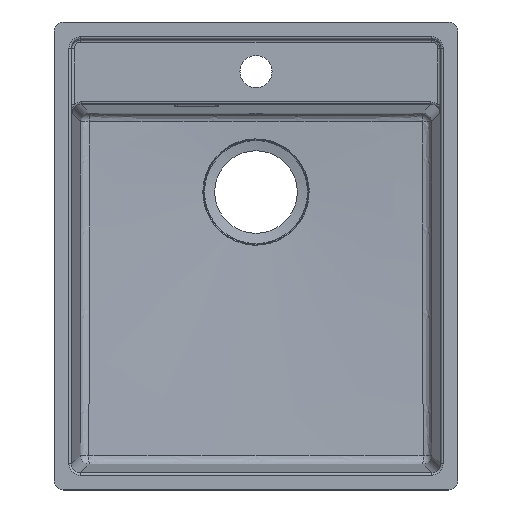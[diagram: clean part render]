
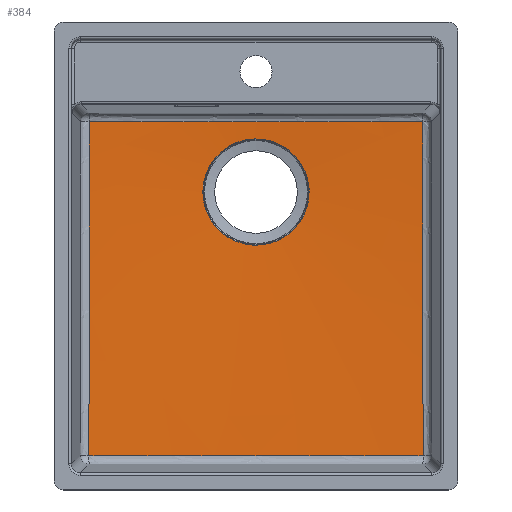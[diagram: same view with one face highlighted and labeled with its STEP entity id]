
A CAD part, top view. The second image highlights one B-rep face of the part: STEP entity #384.
In plain terms, the highlighted conical face has half-angle 87.5 degrees and reference radius 57 mm.
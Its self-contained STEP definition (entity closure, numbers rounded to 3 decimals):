
#99=CONICAL_SURFACE('',#3124,57.,87.5);
#268=B_SPLINE_CURVE_WITH_KNOTS('',3,(#5555,#5556,#5557,#5558,#5559,#5560),
 .UNSPECIFIED.,.F.,.F.,(4,2,4),(0.,0.5,1.),.UNSPECIFIED.);
#269=B_SPLINE_CURVE_WITH_KNOTS('',3,(#5563,#5564,#5565,#5566,#5567,#5568,
#5569,#5570),.UNSPECIFIED.,.F.,.F.,(4,2,2,4),(0.,0.5,0.75,1.),
 .UNSPECIFIED.);
#270=B_SPLINE_CURVE_WITH_KNOTS('',3,(#5572,#5573,#5574,#5575,#5576,#5577,
#5578,#5579,#5580,#5581),.UNSPECIFIED.,.F.,.F.,(4,2,2,2,4),(0.,0.25,0.5,
0.75,1.),.UNSPECIFIED.);
#271=B_SPLINE_CURVE_WITH_KNOTS('',3,(#5583,#5584,#5585,#5586,#5587,#5588,
#5589,#5590),.UNSPECIFIED.,.F.,.F.,(4,2,2,4),(0.,0.25,0.5,1.),
 .UNSPECIFIED.);
#299=FACE_BOUND('',#773,.T.);
#300=FACE_BOUND('',#774,.T.);
#384=ADVANCED_FACE('',(#299,#300),#99,.F.);
#773=EDGE_LOOP('',(#1587));
#774=EDGE_LOOP('',(#1588,#1589,#1590,#1591));
#1587=ORIENTED_EDGE('',*,*,#2649,.T.);
#1588=ORIENTED_EDGE('',*,*,#2650,.T.);
#1589=ORIENTED_EDGE('',*,*,#2651,.T.);
#1590=ORIENTED_EDGE('',*,*,#2652,.T.);
#1591=ORIENTED_EDGE('',*,*,#2653,.T.);
#2333=VERTEX_POINT('',#5554);
#2334=VERTEX_POINT('',#5561);
#2335=VERTEX_POINT('',#5562);
#2336=VERTEX_POINT('',#5571);
#2337=VERTEX_POINT('',#5582);
#2649=EDGE_CURVE('',#2333,#2333,#2889,.T.);
#2650=EDGE_CURVE('',#2334,#2335,#268,.T.);
#2651=EDGE_CURVE('',#2335,#2336,#269,.T.);
#2652=EDGE_CURVE('',#2336,#2337,#270,.T.);
#2653=EDGE_CURVE('',#2337,#2334,#271,.T.);
#2889=CIRCLE('',#3123,57.956);
#3123=AXIS2_PLACEMENT_3D('',#5553,#3688,#3689);
#3124=AXIS2_PLACEMENT_3D('',#5591,#3690,#3691);
#3688=DIRECTION('',(0.,0.,-1.));
#3689=DIRECTION('',(-1.,0.,0.));
#3690=DIRECTION('',(0.,0.,1.));
#3691=DIRECTION('',(1.,0.,0.));
#5553=CARTESIAN_POINT('',(421.5,526.5,80.042));
#5554=CARTESIAN_POINT('',(363.544,526.5,80.042));
#5555=CARTESIAN_POINT('',(239.427,239.293,92.359));
#5556=CARTESIAN_POINT('',(300.113,239.344,90.938));
#5557=CARTESIAN_POINT('',(360.815,239.366,90.048));
#5558=CARTESIAN_POINT('',(482.202,239.366,90.048));
#5559=CARTESIAN_POINT('',(542.889,239.344,90.938));
#5560=CARTESIAN_POINT('',(603.573,239.293,92.359));
#5561=CARTESIAN_POINT('',(239.427,239.293,92.359));
#5562=CARTESIAN_POINT('',(603.573,239.293,92.359));
#5563=CARTESIAN_POINT('',(603.573,239.293,92.359));
#5564=CARTESIAN_POINT('',(603.471,299.912,90.121));
#5565=CARTESIAN_POINT('',(603.396,360.542,88.015));
#5566=CARTESIAN_POINT('',(603.356,451.498,86.023));
#5567=CARTESIAN_POINT('',(603.354,481.819,85.58));
#5568=CARTESIAN_POINT('',(603.352,542.468,85.372));
#5569=CARTESIAN_POINT('',(603.352,572.796,85.613));
#5570=CARTESIAN_POINT('',(603.36,603.127,86.128));
#5571=CARTESIAN_POINT('',(603.36,603.127,86.128));
#5572=CARTESIAN_POINT('',(603.36,603.127,86.128));
#5573=CARTESIAN_POINT('',(573.059,603.076,84.908));
#5574=CARTESIAN_POINT('',(542.757,603.036,83.714));
#5575=CARTESIAN_POINT('',(482.144,603.022,81.688));
#5576=CARTESIAN_POINT('',(451.832,603.072,80.854));
#5577=CARTESIAN_POINT('',(391.162,603.072,80.855));
#5578=CARTESIAN_POINT('',(360.851,603.022,81.689));
#5579=CARTESIAN_POINT('',(300.24,603.036,83.714));
#5580=CARTESIAN_POINT('',(269.94,603.076,84.908));
#5581=CARTESIAN_POINT('',(239.64,603.127,86.128));
#5582=CARTESIAN_POINT('',(239.64,603.127,86.128));
#5583=CARTESIAN_POINT('',(239.64,603.127,86.128));
#5584=CARTESIAN_POINT('',(239.648,572.8,85.613));
#5585=CARTESIAN_POINT('',(239.648,542.474,85.372));
#5586=CARTESIAN_POINT('',(239.646,481.825,85.58));
#5587=CARTESIAN_POINT('',(239.644,451.502,86.023));
#5588=CARTESIAN_POINT('',(239.604,360.537,88.015));
#5589=CARTESIAN_POINT('',(239.529,299.911,90.121));
#5590=CARTESIAN_POINT('',(239.427,239.293,92.359));
#5591=CARTESIAN_POINT('',(421.5,526.5,80.));
